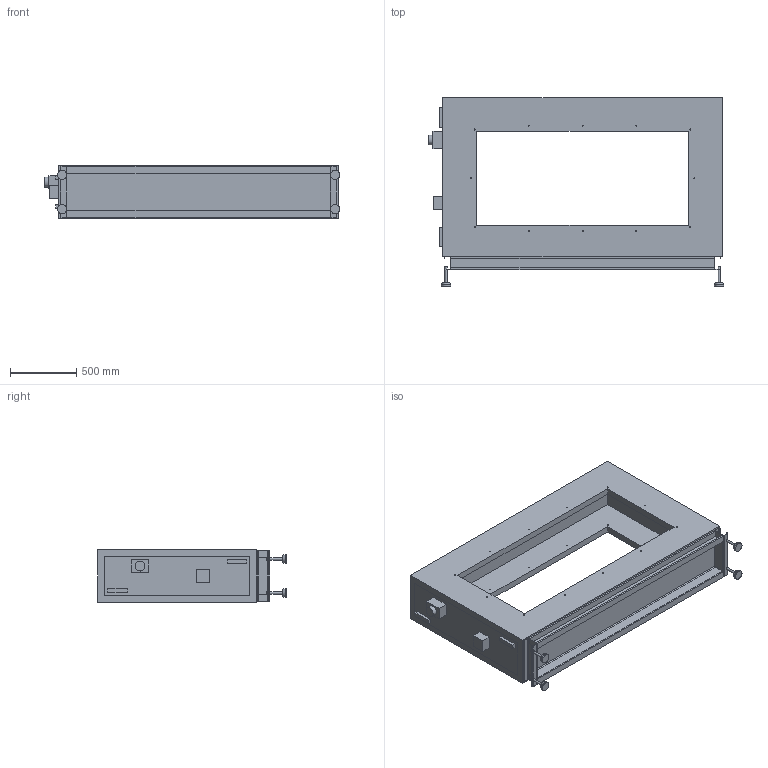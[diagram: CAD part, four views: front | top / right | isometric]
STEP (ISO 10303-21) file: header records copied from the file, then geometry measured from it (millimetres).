
FILE_DESCRIPTION(/* description */ ('STEP AP203'),/* implementation_level */ '2;1');
FILE_NAME(/* name */ 'Z:\Output\AIR1-EVH_RH_15000-01883-001.stp',/* time_stamp */ '2020-10-13T11:58:05+02:00',/* author */ (''),/* organization */ (''),/* preprocessor_version */ 'ST-DEVELOPER v17.2',/* originating_system */ 'Autodesk Inventor 2019',/* authorisation */ '');
FILE_SCHEMA (('AUTOMOTIVE_DESIGN { 1 0 10303 214 3 1 1 }'));
Length unit declared in the file: millimetre
Products named in the file (1): 01883001_AIR1-EVH RH 15000
Bounding box: 2231 x 1425 x 400 mm (x, y, z)
Volume: 245609141.2 mm3; surface area: 11948708.2 mm2
Topology: 3 solids, 3 shells, 190 faces, 459 edges, 290 vertices
Faces by surface type: plane 133, cylinder 53, cone 4
Full cylindrical faces by diameter (mm): 8 x24, 16 x8, 70 x4, 75 x1
Entity records: 5636 total; most frequent: DIRECTION 979, CARTESIAN_POINT 940, ORIENTED_EDGE 918, EDGE_CURVE 459, AXIS2_PLACEMENT_3D 329, LINE 321, VECTOR 321, VERTEX_POINT 290
